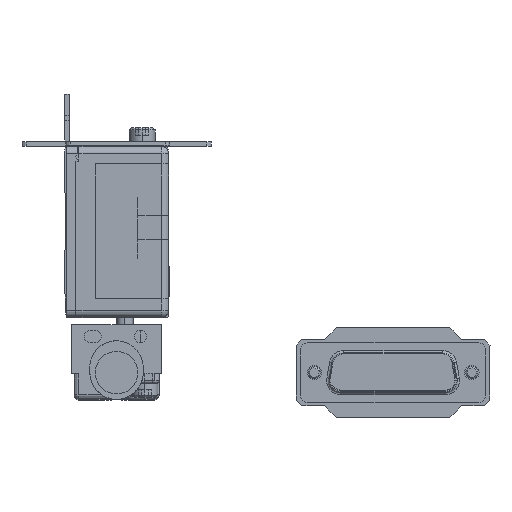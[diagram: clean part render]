
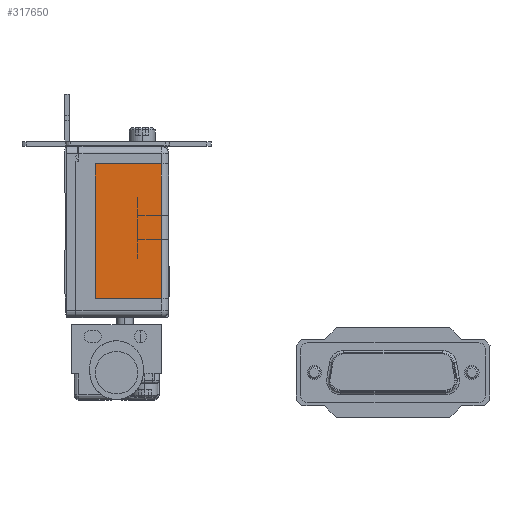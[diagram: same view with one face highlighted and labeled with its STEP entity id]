
A CAD part, left-side view. The second image highlights one B-rep face of the part: STEP entity #317650.
In plain terms, the highlighted planar face has unit normal (-1, 0, 0).
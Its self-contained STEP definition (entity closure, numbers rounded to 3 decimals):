
#317260=CARTESIAN_POINT('',(337.3,3.267,5.907));
#317270=DIRECTION('',(-1.,0.,0.));
#317280=DIRECTION('',(0.,1.,0.));
#317290=AXIS2_PLACEMENT_3D('',#317260,#317270,#317280);
#317300=PLANE('',#317290);
#317310=CARTESIAN_POINT('',(337.3,0.,4.)
);
#317320=DIRECTION('',(0.,1.,0.));
#317330=VECTOR('',#317320,1.);
#317340=LINE('',#317310,#317330);
#317350=CARTESIAN_POINT('',(337.3,1.5,4.));
#317360=VERTEX_POINT('',#317350);
#317370=CARTESIAN_POINT('',(337.3,15.5,4.));
#317380=VERTEX_POINT('',#317370);
#317390=EDGE_CURVE('',#317360,#317380,#317340,.T.);
#317400=ORIENTED_EDGE('',*,*,#317390,.F.);
#317410=CARTESIAN_POINT('',(337.3,15.5,4.));
#317420=DIRECTION('',(0.,0.,1.));
#317430=VECTOR('',#317420,1.);
#317440=LINE('',#317410,#317430);
#317450=CARTESIAN_POINT('',(337.3,15.5,32.5));
#317460=VERTEX_POINT('',#317450);
#317470=EDGE_CURVE('',#317380,#317460,#317440,.T.);
#317480=ORIENTED_EDGE('',*,*,#317470,.F.);
#317490=CARTESIAN_POINT('',(337.3,15.5,32.5));
#317500=DIRECTION('',(0.,-1.,0.));
#317510=VECTOR('',#317500,1.);
#317520=LINE('',#317490,#317510);
#317530=CARTESIAN_POINT('',(337.3,1.5,32.5));
#317540=VERTEX_POINT('',#317530);
#317550=EDGE_CURVE('',#317460,#317540,#317520,.T.);
#317560=ORIENTED_EDGE('',*,*,#317550,.F.);
#317570=CARTESIAN_POINT('',(337.3,1.5,36.5));
#317580=DIRECTION('',(0.,0.,-1.));
#317590=VECTOR('',#317580,1.);
#317600=LINE('',#317570,#317590);
#317610=EDGE_CURVE('',#317540,#317360,#317600,.T.);
#317620=ORIENTED_EDGE('',*,*,#317610,.F.);
#317630=EDGE_LOOP('',(#317620,#317560,#317480,#317400));
#317640=FACE_OUTER_BOUND('',#317630,.T.);
#317650=ADVANCED_FACE('',(#317640),#317300,.T.);
